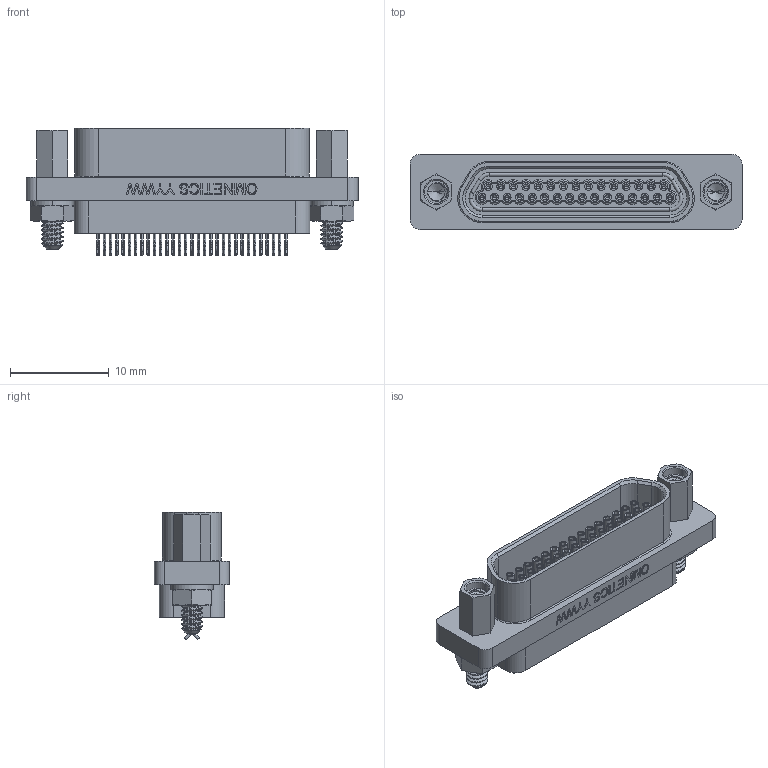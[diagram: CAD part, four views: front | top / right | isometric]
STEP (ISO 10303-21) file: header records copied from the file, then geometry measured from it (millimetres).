
FILE_DESCRIPTION (( 'STEP AP214' ), '1' );
FILE_NAME ('A99901-031 REV A.STEP', '2019-07-05T12:35:07', ( '' ), ( '' ), 'SwSTEP 2.0', 'SolidWorks 2019', '' );
FILE_SCHEMA (( 'AUTOMOTIVE_DESIGN' ));
Length unit declared in the file: inch
Products named in the file (1): A99901-031 REV 1
Bounding box: 33.66 x 7.63 x 12.89 mm (x, y, z)
Volume: 1463.3 mm3; surface area: 3081.3 mm2
Topology: 1 solids, 66 shells, 1877 faces, 4291 edges, 2590 vertices
Faces by surface type: cylinder 1013, plane 412, torus 261, cone 123, bspline 68
Entity records: 63447 total; most frequent: CARTESIAN_POINT 21621, DIRECTION 9025, ORIENTED_EDGE 8438, EDGE_CURVE 4219, AXIS2_PLACEMENT_3D 3678, VERTEX_POINT 2590, EDGE_LOOP 2131, ADVANCED_FACE 1877
